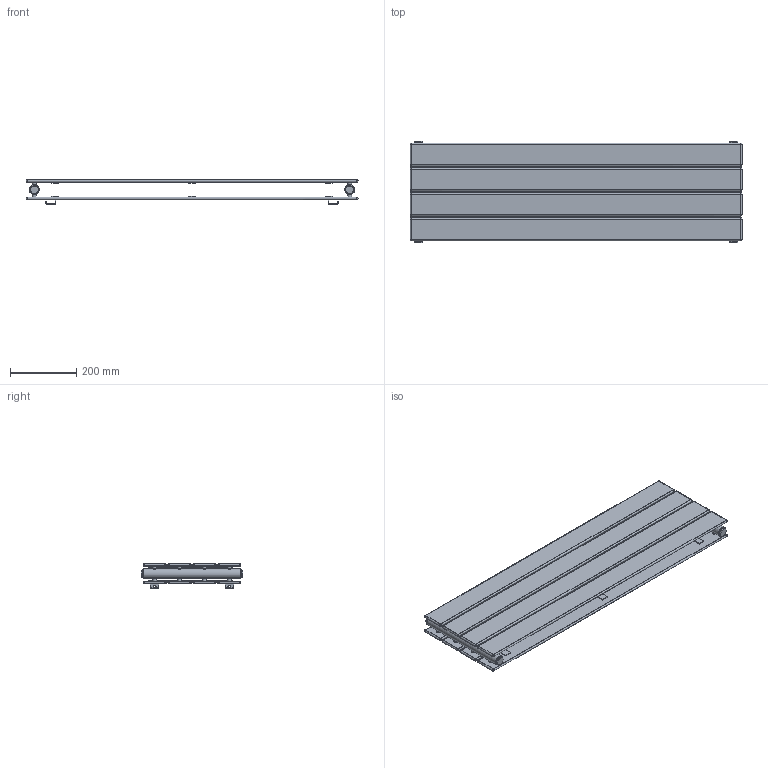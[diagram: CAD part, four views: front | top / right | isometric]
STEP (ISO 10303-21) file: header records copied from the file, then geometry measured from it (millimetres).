
FILE_DESCRIPTION(/* description */ (''),/* implementation_level */ '2;1');
FILE_NAME(/* name */ 'C:\Grzejniki\13DLUXRAD\pokojowe\NIAGARA\to\NIAGARA PODWÓJNA 1000x295.iam.stp',/* time_stamp */ '2016-06-28T17:33:35+02:00',/* author */ ('m.szydziak'),/* organization */ (''),/* preprocessor_version */ 'ST-DEVELOPER v16.5',/* originating_system */ 'Autodesk Inventor 2017',/* authorisation */ '');
FILE_SCHEMA (('AUTOMOTIVE_DESIGN { 1 0 10303 214 3 1 1 }'));
Length unit declared in the file: millimetre
Products named in the file (7): NIAGARA PODWÓJNA 1000x295; %%C30x1,5x295; 70x8x1,2x1004; michałek; poprzeczka 255; ucho małe; korek
Assembly tree (40 placements, depth 2):
  NIAGARA PODWÓJNA 1000x295
    %%C30x1,5x295  x2
    70x8x1,2x1004  x8
    michałek  x16
    poprzeczka 255  x6
    ucho małe  x4
    korek  x4
Bounding box: 1000 x 307 x 75 mm (x, y, z)
Volume: 1578832.1 mm3; surface area: 2534126.1 mm2
Topology: 40 solids, 40 shells, 560 faces, 1314 edges, 816 vertices
Faces by surface type: plane 284, cylinder 196, sphere 64, bspline 16
Full cylindrical faces by diameter (mm): 8 x16, 9 x16, 10 x24, 11.5 x16, 18.631 x4, 24 x4, 27 x2, 30 x2
Entity records: 3947 total; most frequent: CARTESIAN_POINT 1175, DIRECTION 571, ORIENTED_EDGE 454, EDGE_CURVE 227, AXIS2_PLACEMENT_3D 223, VERTEX_POINT 151, EDGE_LOOP 136, LINE 125
